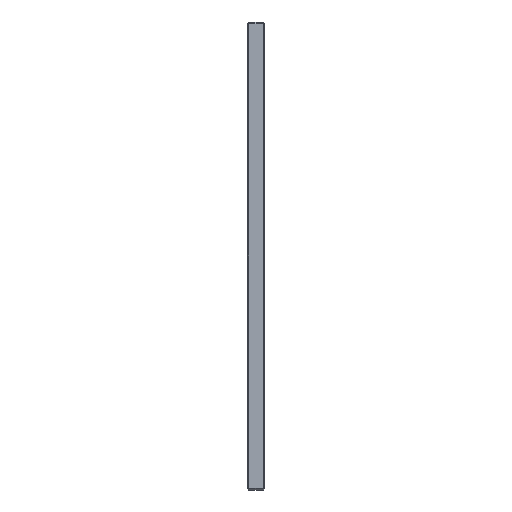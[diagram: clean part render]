
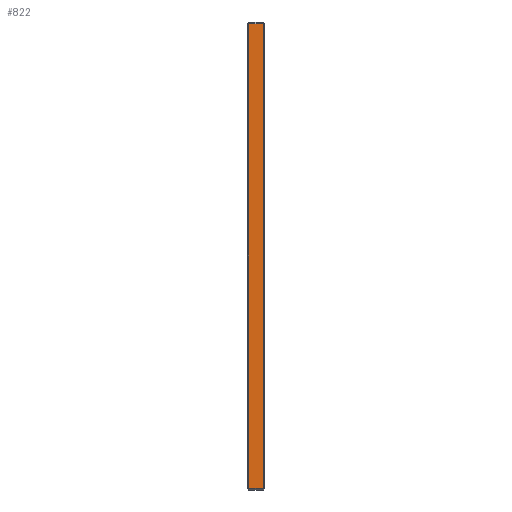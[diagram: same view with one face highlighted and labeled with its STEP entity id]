
A CAD part, left-side view. The second image highlights one B-rep face of the part: STEP entity #822.
In plain terms, the highlighted planar face has unit normal (-1, 0, 0).
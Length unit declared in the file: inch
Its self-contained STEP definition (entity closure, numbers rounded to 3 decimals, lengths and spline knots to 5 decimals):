
#75 = VECTOR ( 'NONE', #1613, 39.37008 ) ;
#78 = LINE ( 'NONE', #1371, #505 ) ;
#103 = DIRECTION ( 'NONE',  ( 0., 0., 1. ) ) ;
#193 = VECTOR ( 'NONE', #1895, 39.37008 ) ;
#270 = AXIS2_PLACEMENT_3D ( 'NONE', #1894, #1005, #861 ) ;
#399 = EDGE_CURVE ( 'NONE', #929, #1445, #1495, .T. ) ;
#505 = VECTOR ( 'NONE', #924, 39.37008 ) ;
#558 = CARTESIAN_POINT ( 'NONE',  ( -10.3125, 0.05, 6.575 ) ) ;
#661 = EDGE_CURVE ( 'NONE', #1062, #929, #78, .T. ) ;
#674 = LINE ( 'NONE', #845, #193 ) ;
#819 = CARTESIAN_POINT ( 'NONE',  ( -10.3125, 0.05, -6.625 ) ) ;
#822 = ADVANCED_FACE ( 'Placement Plane', ( #881 ), #1296, .F. ) ;
#837 = ORIENTED_EDGE ( 'NONE', *, *, #661, .T. ) ;
#845 = CARTESIAN_POINT ( 'NONE',  ( -10.3125, 0.5, 6.575 ) ) ;
#861 = DIRECTION ( 'NONE',  ( 0., 0., -1. ) ) ;
#881 = FACE_OUTER_BOUND ( 'NONE', #1862, .T. ) ;
#924 = DIRECTION ( 'NONE',  ( 0., -1., 0. ) ) ;
#929 = VERTEX_POINT ( 'NONE', #1667 ) ;
#1005 = DIRECTION ( 'NONE',  ( 1., 0., 0. ) ) ;
#1062 = VERTEX_POINT ( 'NONE', #1626 ) ;
#1284 = CARTESIAN_POINT ( 'NONE',  ( -10.3125, 0.45, -6.625 ) ) ;
#1296 = PLANE ( 'NONE',  #270 ) ;
#1357 = EDGE_CURVE ( 'NONE', #1445, #1566, #674, .T. ) ;
#1371 = CARTESIAN_POINT ( 'NONE',  ( -10.3125, 0.5, -6.575 ) ) ;
#1388 = EDGE_CURVE ( 'NONE', #1566, #1062, #1431, .T. ) ;
#1431 = LINE ( 'NONE', #1284, #75 ) ;
#1436 = ORIENTED_EDGE ( 'NONE', *, *, #399, .T. ) ;
#1445 = VERTEX_POINT ( 'NONE', #558 ) ;
#1495 = LINE ( 'NONE', #819, #1637 ) ;
#1566 = VERTEX_POINT ( 'NONE', #1819 ) ;
#1613 = DIRECTION ( 'NONE',  ( 0., 0., -1. ) ) ;
#1626 = CARTESIAN_POINT ( 'NONE',  ( -10.3125, 0.45, -6.575 ) ) ;
#1637 = VECTOR ( 'NONE', #103, 39.37008 ) ;
#1667 = CARTESIAN_POINT ( 'NONE',  ( -10.3125, 0.05, -6.575 ) ) ;
#1697 = ORIENTED_EDGE ( 'NONE', *, *, #1357, .T. ) ;
#1702 = ORIENTED_EDGE ( 'NONE', *, *, #1388, .T. ) ;
#1819 = CARTESIAN_POINT ( 'NONE',  ( -10.3125, 0.45, 6.575 ) ) ;
#1862 = EDGE_LOOP ( 'NONE', ( #1702, #837, #1436, #1697 ) ) ;
#1894 = CARTESIAN_POINT ( 'NONE',  ( -10.3125, 0.5, -6.625 ) ) ;
#1895 = DIRECTION ( 'NONE',  ( 0., 1., 0. ) ) ;
